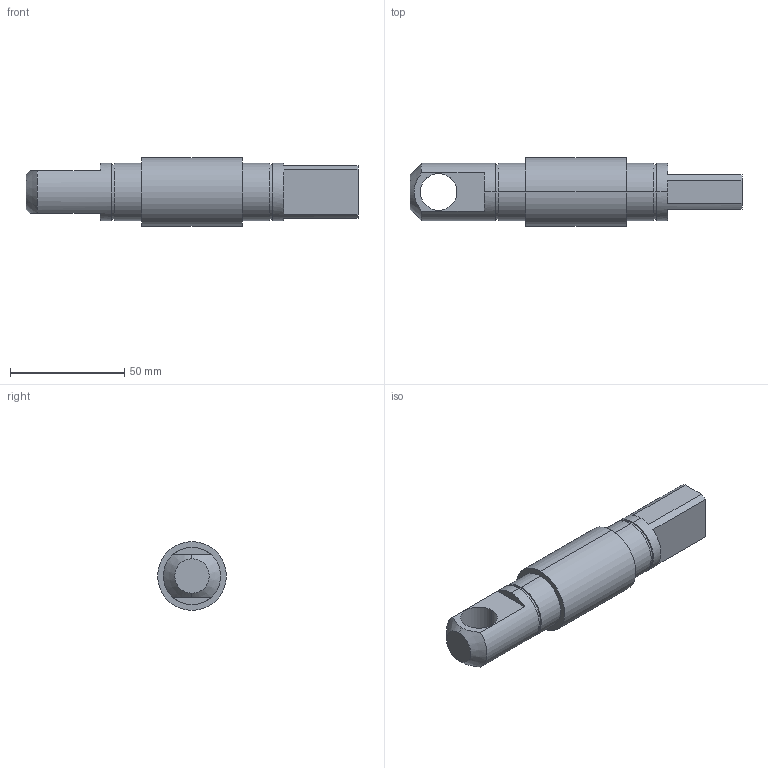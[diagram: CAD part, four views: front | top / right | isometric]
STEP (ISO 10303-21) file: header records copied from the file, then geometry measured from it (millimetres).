
FILE_DESCRIPTION (( 'STEP AP203' ), '1' );
FILE_NAME ('YWSD-2026-03-01-05-02=002 种粣.STEP', '2026-07-24T07:36:02', ( 'Windows 蚚誧' ), ( '' ), 'SwSTEP 2.0', 'SolidWorks 2024', '' );
FILE_SCHEMA (( 'CONFIG_CONTROL_DESIGN' ));
Length unit declared in the file: millimetre
Products named in the file (1): YWSD-2026-03-01-05-02=002 销轴
Bounding box: 145 x 30 x 30 mm (x, y, z)
Volume: 68871.6 mm3; surface area: 13644 mm2
Topology: 1 solids, 1 shells, 38 faces, 90 edges, 60 vertices
Faces by surface type: plane 20, cylinder 16, cone 2
Entity records: 1241 total; most frequent: CARTESIAN_POINT 237, DIRECTION 210, ORIENTED_EDGE 180, EDGE_CURVE 90, AXIS2_PLACEMENT_3D 85, VERTEX_POINT 60, EDGE_LOOP 46, CIRCLE 46
